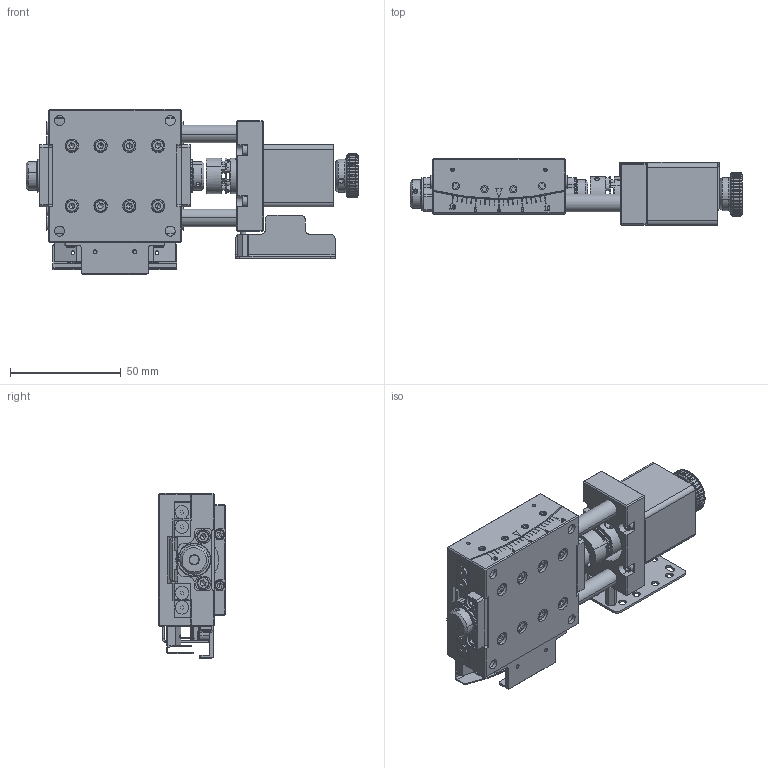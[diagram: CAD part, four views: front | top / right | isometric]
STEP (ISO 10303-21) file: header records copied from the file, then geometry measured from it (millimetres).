
FILE_DESCRIPTION (( 'STEP AP203' ), '1' );
FILE_NAME ('PT-GD06100-LC(±10°）.STEP', '2026-08-07T06:03:29', ( '' ), ( '' ), 'SwSTEP 2.0', 'SolidWorks 2025', '' );
FILE_SCHEMA (( 'CONFIG_CONTROL_DESIGN' ));
Length unit declared in the file: millimetre
Products named in the file (1): PT-GD06100-LC(±10°）
Bounding box: 150.09 x 30 x 74.6 mm (x, y, z)
Surface area: 53997 mm2 (no closed solid volume)
Topology: 0 solids, 106 shells, 1332 faces, 4350 edges, 2985 vertices
Faces by surface type: plane 770, cylinder 402, torus 72, cone 65, bspline 23
Entity records: 51770 total; most frequent: CARTESIAN_POINT 14372, DIRECTION 7654, ORIENTED_EDGE 7045, EDGE_CURVE 4294, VERTEX_POINT 2985, AXIS2_PLACEMENT_3D 2559, LINE 2536, VECTOR 2536
